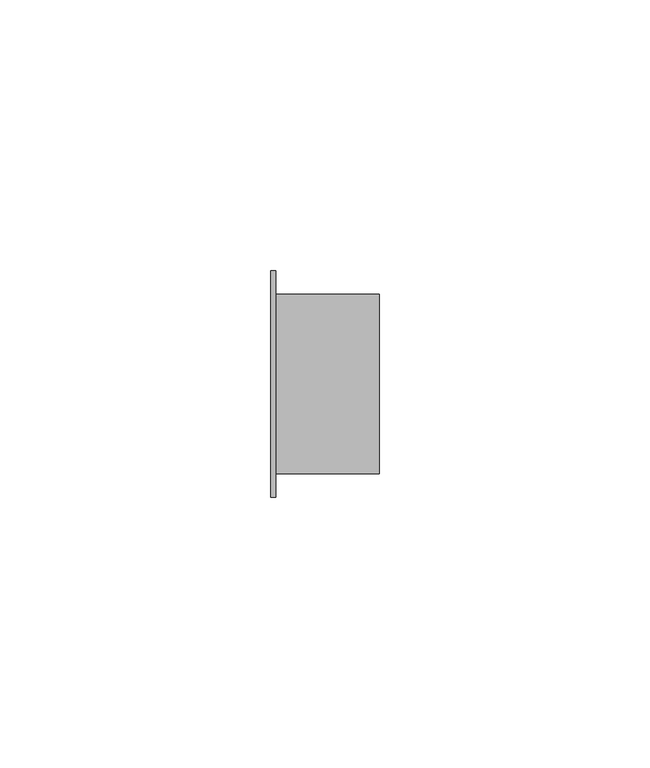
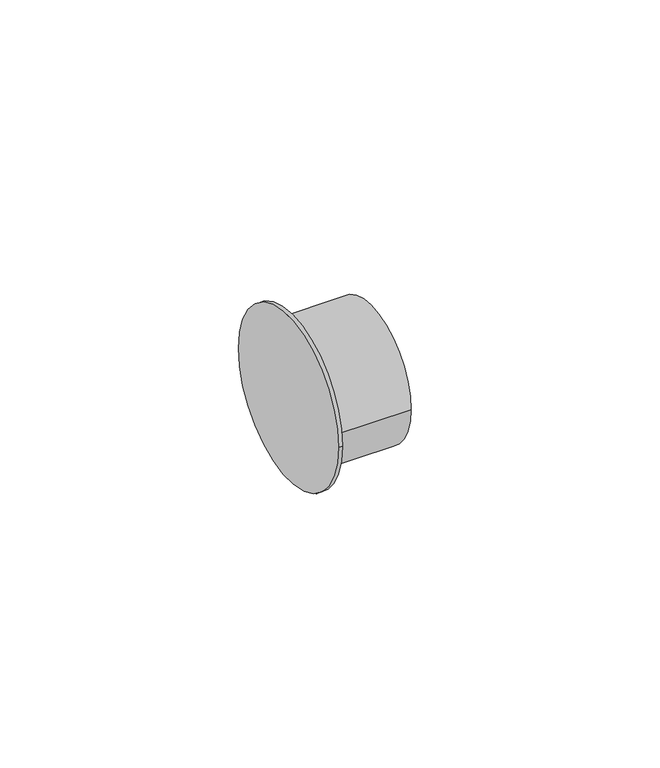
"""IFC4 building model written with IfcOpenShell, lengths in millimetres: pipe fitting geometry, Bucha de redução reta - Soldada - CU : Padrão."""

from ifc_helpers import new_model, si_unit, frame, origin, place, context, project, spatial, circle_curve, source, transform, mapped, element, save
from ifc_brep_helpers import plane_surface, cylinder_surface, advanced_brep


def pipe_fitting_4dadca9a(model_context):
    return source(origin(), model_context, "Body", "AdvancedBrep", [
        advanced_brep(
        [(0.0, -20.965, 0.0), (0.0, 20.965, 0.0), (1.0, -20.965, 0.0), (1.0, 20.965, 0.0), (1.0, -16.5925, 0.0), (1.0, 16.5925, 0.0), (20.1225, -16.5925, 0.0), (20.1225, 16.5925, 0.0)],
        [
            (0, 1, circle_curve(frame((0.0, 0.0, 0.0), z_axis=(-1.0, 0.0, 0.0), x_axis=(0.0, 1.0, 0.0)), 20.965)),
            (1, 0, circle_curve(frame((0.0, 0.0, 0.0), z_axis=(-1.0, 0.0, 0.0), x_axis=(0.0, 1.0, 0.0)), 20.965)),
            (2, 3, circle_curve(frame((1.0, 0.0, 0.0), z_axis=(1.0, 0.0, 0.0), x_axis=(0.0, 1.0, 0.0)), 20.965)),
            (3, 2, circle_curve(frame((1.0, 0.0, 0.0), z_axis=(1.0, 0.0, 0.0), x_axis=(0.0, 1.0, 0.0)), 20.965)),
            (4, 5, circle_curve(frame((1.0, 0.0, 0.0), z_axis=(-1.0, 0.0, 0.0), x_axis=(0.0, 1.0, 0.0)), 16.5925)),
            (5, 4, circle_curve(frame((1.0, 0.0, 0.0), z_axis=(-1.0, 0.0, 0.0), x_axis=(0.0, 1.0, 0.0)), 16.5925)),
            (0, 2),
            (3, 1),
            (6, 7, circle_curve(frame((20.1225, 0.0, 0.0), z_axis=(1.0, 0.0, 0.0), x_axis=(0.0, 1.0, 0.0)), 16.5925)),
            (7, 6, circle_curve(frame((20.1225, 0.0, 0.0), z_axis=(1.0, 0.0, 0.0), x_axis=(0.0, 1.0, 0.0)), 16.5925)),
            (7, 5),
            (4, 6),
        ],
        [
            plane_surface(frame((0.0, 0.0, 0.0), z_axis=(-1.0, 0.0, 0.0), x_axis=(0.0, 0.0, 1.0))),
            plane_surface(frame((1.0, 0.0, 0.0), z_axis=(1.0, 0.0, 0.0), x_axis=(0.0, 0.0, 1.0))),
            cylinder_surface(frame((0.0, 0.0, 0.0), z_axis=(-1.0, 0.0, 0.0), x_axis=(0.0, 1.0, 0.0)), 20.965),
            plane_surface(frame((20.1225, 0.0, 0.0), z_axis=(1.0, 0.0, 0.0), x_axis=(0.0, 0.0, 1.0))),
            cylinder_surface(frame((1.0, 0.0, 0.0), z_axis=(-1.0, 0.0, 0.0), x_axis=(0.0, 1.0, 0.0)), 16.5925),
        ],
        [
            (0, [[1, 2]]),
            (1, [[3, 4], [5, 6]]),
            (2, [[-1, 7, -4, 8]]),
            (2, [[-2, -8, -3, -7]]),
            (3, [[9, 10]]),
            (4, [[-10, 11, -5, 12]]),
            (4, [[-9, -12, -6, -11]]),
        ],
    ),
    ])


if __name__ == "__main__":
    model = new_model("IFC4")
    model_context = context("Model", 3, world=origin())
    ifc_project = project(units=[si_unit("LENGTHUNIT", "METRE", prefix="MILLI")], contexts=[model_context])
    site = spatial("IfcSite", under=ifc_project)
    building = spatial("IfcBuilding", under=site)
    placement = place(None, origin())
    pipe_fitting_shape = pipe_fitting_4dadca9a(model_context)
    element("IfcPipeFitting", 1, ObjectType="Bucha de redução reta - Soldada - CU : Padrão", at=placement, inside=building, context=model_context, shape_type="MappedRepresentation", body=[
        mapped(pipe_fitting_shape, transform((0.0, 0.0, 0.0), x_axis=(1.0, 0.0, 0.0), y_axis=(0.0, 1.0, 0.0), z_axis=(0.0, 0.0, 1.0))),
    ])
    save(model, "model.ifc")
